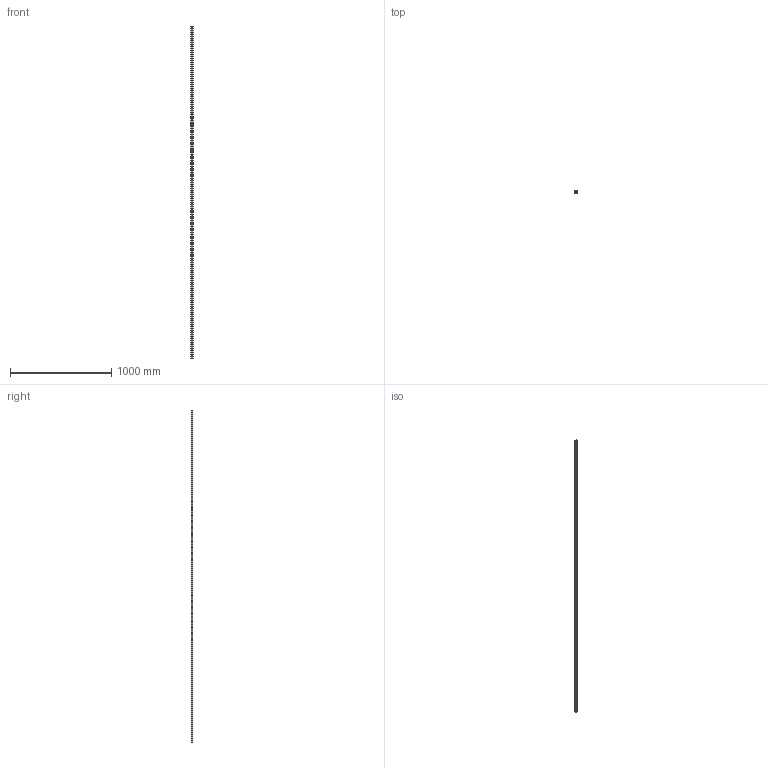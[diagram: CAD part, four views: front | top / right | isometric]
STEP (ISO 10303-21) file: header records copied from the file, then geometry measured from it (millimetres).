
FILE_DESCRIPTION (( 'STEP AP203' ), '1' );
FILE_NAME ('L1016.BRF25-3280.step', '2019-06-13T08:46:04', ( '' ), ( '' ), 'SwSTEP 2.0', 'SolidWorks 2017', '' );
FILE_SCHEMA (( 'CONFIG_CONTROL_DESIGN' ));
Length unit declared in the file: millimetre
Products named in the file (1): L1016.BRF25-3280
Bounding box: 23 x 19.2 x 3280 mm (x, y, z)
Volume: 1252332.5 mm3; surface area: 301743.4 mm2
Topology: 1 solids, 1 shells, 411 faces, 952 edges, 543 vertices
Faces by surface type: cylinder 224, cone 110, plane 77
Entity records: 11021 total; most frequent: DIRECTION 2114, CARTESIAN_POINT 1797, ORIENTED_EDGE 1684, AXIS2_PLACEMENT_3D 860, EDGE_CURVE 842, VERTEX_POINT 543, EDGE_LOOP 521, CIRCLE 448
